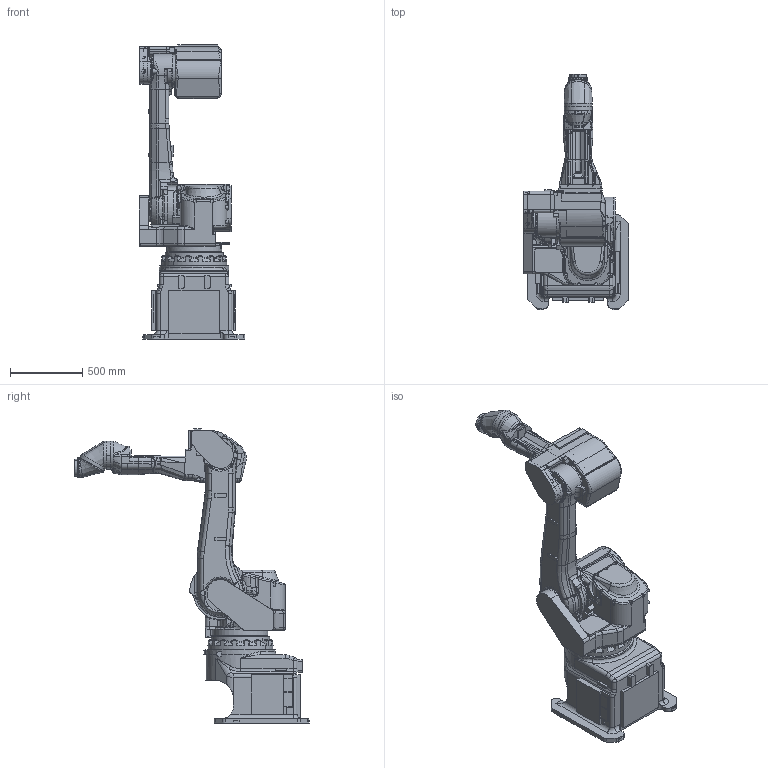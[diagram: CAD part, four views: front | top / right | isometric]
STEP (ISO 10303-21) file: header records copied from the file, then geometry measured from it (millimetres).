
FILE_DESCRIPTION(('CATIA V5 STEP Exchange'),'2;1');
FILE_NAME('F:\☆新しいフォルダ\【K-ROSET】\K-ROSET_モデル\ロボット\※ロボット\※K\☆150522_KJシリーズ一新\受領モデル\KJ\ASSY\☆○KJ194J-B001(yuka)\ASSY\Part\STEP_160223\KJ194-B001.stp','2016-02-23T02:51:49+00:00',('none'),('none'),'CATIA Version 5-6 Release 2013 SP5 HF60','CATIA V5 STEP AP203','none');
FILE_SCHEMA(('CONFIG_CONTROL_DESIGN'));
Products named in the file (1): KJ194-B001
Assembly tree (8 placements, depth 2):
  KJ194-B001
    #57
    #14283
    #31433
    #65139
    #187117
    #187633
    #188751
    #189639
Bounding box: 730 x 1620 x 2031 mm (x, y, z)
Volume: 252115124.8 mm3; surface area: 9434278.2 mm2
Topology: 9 solids, 58 shells, 4403 faces, 11131 edges, 6741 vertices
Faces by surface type: cylinder 1533, plane 1273, bspline 752, torus 454, cone 253, sphere 67, revolution 53, extrusion 18
Entity records: 193806 total; most frequent: CARTESIAN_POINT 101744, ORIENTED_EDGE 21736, DIRECTION 13541, EDGE_CURVE 10868, VERTEX_POINT 6741, AXIS2_PLACEMENT_3D 6610, EDGE_LOOP 4603, ADVANCED_FACE 4403
